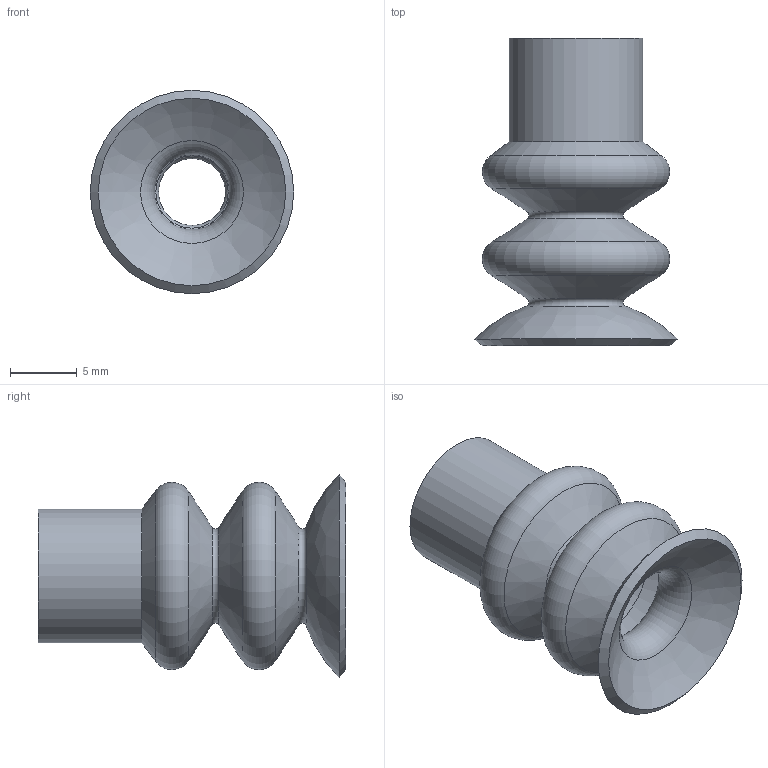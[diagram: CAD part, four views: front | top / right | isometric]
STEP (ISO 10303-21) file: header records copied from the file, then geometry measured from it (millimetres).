
FILE_DESCRIPTION( ( 'STEP AP203' ), '1' );
FILE_NAME( 'e:/temp/worker_382/temp/exporttempdir_5016_485_uMqlO/format_0/PCG-15-N.stp', '2021-09-10T01:56:27', ( 'License CC BY-ND 4.0' ), ( 'CADENAS' ), ' ', 'PARTsolutions', ' ' );
FILE_SCHEMA( ( 'CONFIG_CONTROL_DESIGN' ) );
Length unit declared in the file: millimetre
Products named in the file (1): _PCG-15-N
Bounding box: 15.2 x 23 x 15.2 mm (x, y, z)
Volume: 1316.4 mm3; surface area: 1846.1 mm2
Topology: 1 solids, 1 shells, 21 faces, 41 edges, 21 vertices
Faces by surface type: cone 9, torus 7, cylinder 2, bspline 2, plane 1
Full cylindrical faces by diameter (mm): 5 x1, 10 x1
Entity records: 526 total; most frequent: CARTESIAN_POINT 120, DIRECTION 82, EDGE_LOOP 42, ORIENTED_EDGE 42, AXIS2_PLACEMENT_3D 41, FACE_OUTER_BOUND 32, VERTEX_POINT 23, ADVANCED_FACE 21
